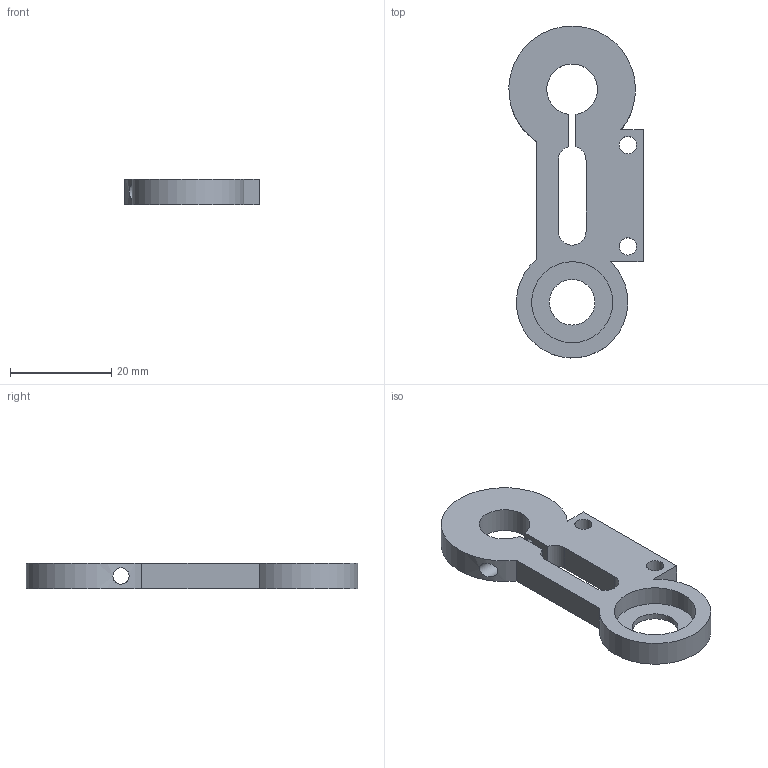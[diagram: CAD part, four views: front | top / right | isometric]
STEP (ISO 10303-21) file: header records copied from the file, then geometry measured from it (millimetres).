
FILE_DESCRIPTION(('Open CASCADE Model'),'2;1');
FILE_NAME('COMPOUND','2026-10-16T15:25:18',('Author'),('Open CASCADE'), 'Open CASCADE STEP processor 7.8','build123d','Unknown');
FILE_SCHEMA(('AUTOMOTIVE_DESIGN { 1 0 10303 214 1 1 1 1 }'));
Length unit declared in the file: millimetre
Products named in the file (2): =>[0:1:1:2]; COMPOUND
Assembly tree (1 placements, depth 2):
  =>[0:1:1:2]
    COMPOUND
Bounding box: 26.48 x 65.49 x 5 mm (x, y, z)
Volume: 4610.4 mm3; surface area: 3909.4 mm2
Topology: 1 solids, 1 shells, 23 faces, 66 edges, 44 vertices
Faces by surface type: cylinder 12, plane 11
Full cylindrical faces by diameter (mm): 3.2 x2, 3.4 x2, 9 x1, 16 x1
Entity records: 2152 total; most frequent: CARTESIAN_POINT 831, DIRECTION 234, ORIENTED_EDGE 132, PCURVE 132, DEFINITIONAL_REPRESENTATION 132, LINE 130, VECTOR 130, EDGE_CURVE 66
